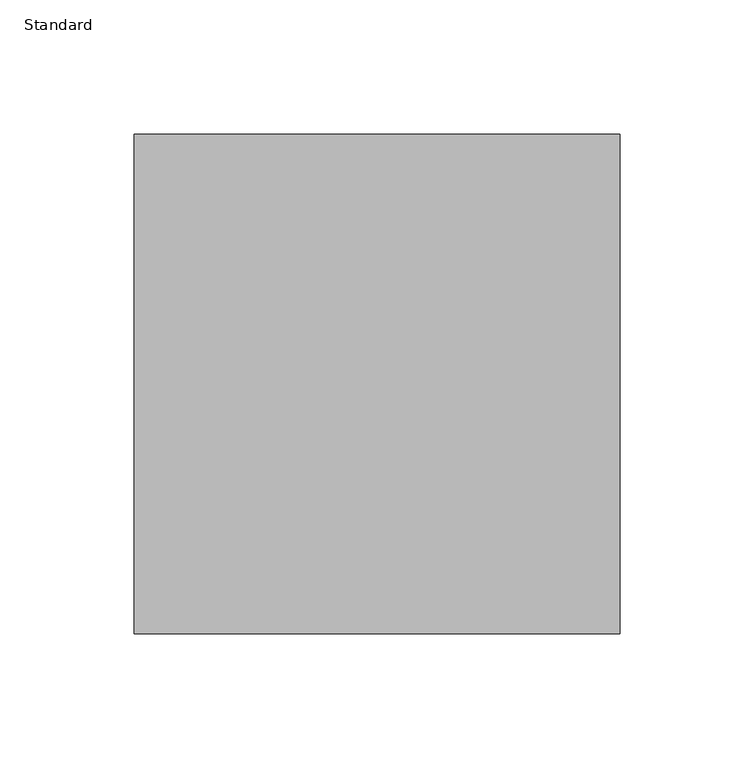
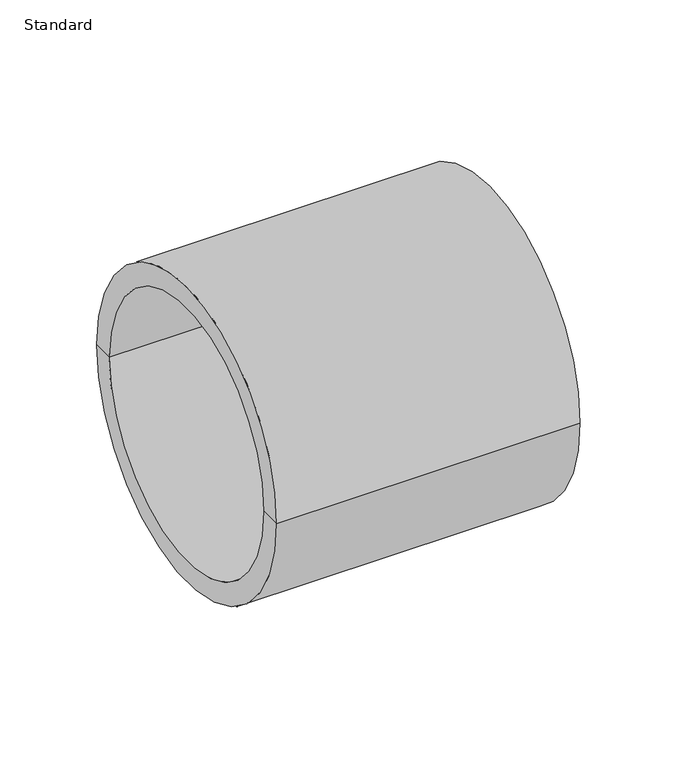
"""IFC4 building model written with IfcOpenShell, lengths in millimetres: pipe fitting geometry, Durapipe_PipeFitting_PVC_Socket : Standard."""

from ifc_helpers import new_model, si_unit, frame, origin, place, context, project, spatial, polyline, circle_curve, source, transform, mapped, element, save
from ifc_brep_helpers import plane_surface, cylinder_surface, revolved_surface, advanced_brep


def standard_607f699d(model_context):
    return source(origin(), model_context, "Body", "AdvancedBrep", [
        advanced_brep(
        [(-90.5, -93.0, 0.0), (-90.5, 93.0, 0.0), (90.5, 93.0, 0.0), (90.5, -93.0, 0.0), (-90.5, -80.0, 0.0), (-90.5, 80.0, 0.0), (4.5, -71.0, 0.0), (4.5, 71.0, 0.0), (-4.5, 71.0, 0.0), (-4.5, -71.0, 0.0), (90.5, 80.0, 0.0), (90.5, -80.0, 0.0), (-4.5, -80.0, 0.0), (-4.5, 80.0, 0.0), (4.5, -80.0, 0.0), (4.5, 80.0, 0.0)],
        [
            (0, 1, circle_curve(frame((-90.5, 0.0, 0.0), z_axis=(1.0, 0.0, 0.0), x_axis=(0.0, 1.0, 0.0)), 93.0)),
            (1, 2),
            (2, 3, circle_curve(frame((90.5, 0.0, 0.0), z_axis=(-1.0, 0.0, 0.0), x_axis=(0.0, 1.0, 0.0)), 93.0)),
            (3, 0),
            (1, 0, circle_curve(frame((-90.5, 0.0, 0.0), z_axis=(1.0, 0.0, 0.0), x_axis=(0.0, 1.0, 0.0)), 93.0)),
            (3, 2, circle_curve(frame((90.5, 0.0, 0.0), z_axis=(-1.0, 0.0, 0.0), x_axis=(0.0, 1.0, 0.0)), 93.0)),
            (4, 5, circle_curve(frame((-90.5, 0.0, 0.0), z_axis=(1.0, 0.0, 0.0), x_axis=(0.0, 1.0, 0.0)), 80.0)),
            (5, 1),
            (0, 4),
            (5, 4, circle_curve(frame((-90.5, 0.0, 0.0), z_axis=(1.0, 0.0, 0.0), x_axis=(0.0, 1.0, 0.0)), 80.0)),
            (6, 7, circle_curve(frame((4.5, 0.0, 0.0), z_axis=(1.0, 0.0, 0.0), x_axis=(0.0, 1.0, 0.0)), 71.0)),
            (7, 8),
            (8, 9, circle_curve(frame((-4.5, 0.0, 0.0), z_axis=(-1.0, 0.0, 0.0), x_axis=(0.0, 1.0, 0.0)), 71.0)),
            (9, 6),
            (7, 6, circle_curve(frame((4.5, 0.0, 0.0), z_axis=(1.0, 0.0, 0.0), x_axis=(0.0, 1.0, 0.0)), 71.0)),
            (9, 8, circle_curve(frame((-4.5, 0.0, 0.0), z_axis=(-1.0, 0.0, 0.0), x_axis=(0.0, 1.0, 0.0)), 71.0)),
            (2, 10),
            (10, 11, circle_curve(frame((90.5, 0.0, 0.0), z_axis=(-1.0, 0.0, 0.0), x_axis=(0.0, 1.0, 0.0)), 80.0)),
            (11, 3),
            (11, 10, circle_curve(frame((90.5, 0.0, 0.0), z_axis=(-1.0, 0.0, 0.0), x_axis=(0.0, 1.0, 0.0)), 80.0)),
            (12, 13, circle_curve(frame((-4.5, 0.0, 0.0), z_axis=(1.0, 0.0, 0.0), x_axis=(0.0, 1.0, 0.0)), 80.0)),
            (13, 5),
            (4, 12),
            (13, 12, circle_curve(frame((-4.5, 0.0, 0.0), z_axis=(1.0, 0.0, 0.0), x_axis=(0.0, 1.0, 0.0)), 80.0)),
            (8, 13),
            (12, 9),
            (14, 15, circle_curve(frame((4.5, 0.0, 0.0), z_axis=(1.0, 0.0, 0.0), x_axis=(0.0, 1.0, 0.0)), 80.0)),
            (15, 7),
            (6, 14),
            (15, 14, circle_curve(frame((4.5, 0.0, 0.0), z_axis=(1.0, 0.0, 0.0), x_axis=(0.0, 1.0, 0.0)), 80.0)),
            (10, 15),
            (14, 11),
        ],
        [
            cylinder_surface(frame((-90.5, 0.0, 0.0), z_axis=(-1.0, 0.0, 0.0), x_axis=(0.0, 1.0, 0.0)), 93.0),
            plane_surface(frame((-90.5, 0.0, 0.0), z_axis=(-1.0, 0.0, 0.0), x_axis=(0.0, 1.0, 0.0))),
            revolved_surface(polyline([(-4.5, 71.0, 0.0), (4.5, 71.0, 0.0)]), (-90.5, 0.0, 0.0), (-1.0, 0.0, 0.0)),
            plane_surface(frame((90.5, 0.0, 0.0), z_axis=(1.0, 0.0, 0.0), x_axis=(0.0, 1.0, 0.0))),
            revolved_surface(polyline([(-90.5, 80.0, 0.0), (-4.5, 80.0, 0.0)]), (-90.5, 0.0, 0.0), (-1.0, 0.0, 0.0)),
            plane_surface(frame((-4.5, 0.0, 0.0), z_axis=(-1.0, 0.0, 0.0), x_axis=(0.0, 1.0, 0.0))),
            plane_surface(frame((4.5, 0.0, 0.0), z_axis=(1.0, 0.0, 0.0), x_axis=(0.0, 1.0, 0.0))),
            revolved_surface(polyline([(4.5, 80.0, 0.0), (90.5, 80.0, 0.0)]), (-90.5, 0.0, 0.0), (-1.0, 0.0, 0.0)),
        ],
        [
            (0, [[1, 2, 3, 4]]),
            (0, [[5, -4, 6, -2]]),
            (1, [[7, 8, -1, 9]]),
            (1, [[10, -9, -5, -8]]),
            (2, [[11, 12, 13, 14]]),
            (2, [[15, -14, 16, -12]]),
            (3, [[-3, 17, 18, 19]]),
            (3, [[-6, -19, 20, -17]]),
            (4, [[21, 22, -7, 23]]),
            (4, [[24, -23, -10, -22]]),
            (5, [[-13, 25, -21, 26]]),
            (5, [[-16, -26, -24, -25]]),
            (6, [[27, 28, -11, 29]]),
            (6, [[30, -29, -15, -28]]),
            (7, [[-18, 31, -27, 32]]),
            (7, [[-20, -32, -30, -31]]),
        ],
    ),
    ])


if __name__ == "__main__":
    model = new_model("IFC4")
    model_context = context("Model", 3, world=origin())
    ifc_project = project(units=[si_unit("LENGTHUNIT", "METRE", prefix="MILLI")], contexts=[model_context])
    site = spatial("IfcSite", under=ifc_project)
    building = spatial("IfcBuilding", under=site)
    placement = place(None, origin())
    standard_shape = standard_607f699d(model_context)
    element("IfcPipeFitting", 1, ObjectType="Durapipe_PipeFitting_PVC_Socket : Standard", at=placement, inside=building, context=model_context, shape_type="MappedRepresentation", body=[
        mapped(standard_shape, transform((0.0, 0.0, 0.0), x_axis=(1.0, 0.0, 0.0), y_axis=(0.0, 1.0, 0.0), z_axis=(0.0, 0.0, 1.0))),
    ])
    save(model, "model.ifc")
